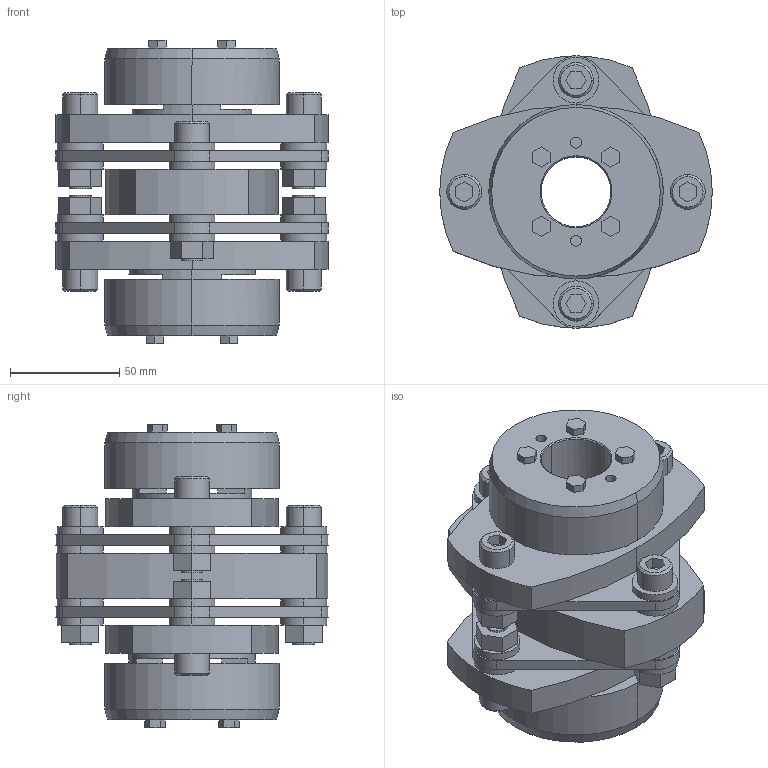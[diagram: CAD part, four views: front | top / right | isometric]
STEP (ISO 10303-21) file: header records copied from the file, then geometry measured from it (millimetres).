
FILE_DESCRIPTION((''),'2;1');
FILE_NAME('LCD-125T7-32×35.stp','2011-09-07T10:08:53',(''),(''),'AutoCAD STEP 2000i','AutoCAD 2000i',', , ');
FILE_SCHEMA(('CONFIG_CONTROL_DESIGN'));
Length unit declared in the file: millimetre
Products named in the file (6): LCD-125T7-32×35; 忣兜1; LC125T7-T035; LC125T7-T032-1; LC125T7-T032; LCD125-ITA
Assembly tree (5 placements, depth 2):
  LCD-125T7-32×35
    忣兜1
    LC125T7-T035
    LC125T7-T032-1
    LC125T7-T032
    LCD125-ITA
Bounding box: 125 x 124.91 x 139 mm (x, y, z)
Volume: 665516.8 mm3; surface area: 137802.4 mm2
Topology: 1 solids, 1 shells, 334 faces, 818 edges, 538 vertices
Faces by surface type: plane 190, cylinder 120, cone 24
Entity records: 10085 total; most frequent: DIRECTION 1780, CARTESIAN_POINT 1696, ORIENTED_EDGE 1636, EDGE_CURVE 818, AXIS2_PLACEMENT_3D 622, VERTEX_POINT 538, VECTOR 536, LINE 536
